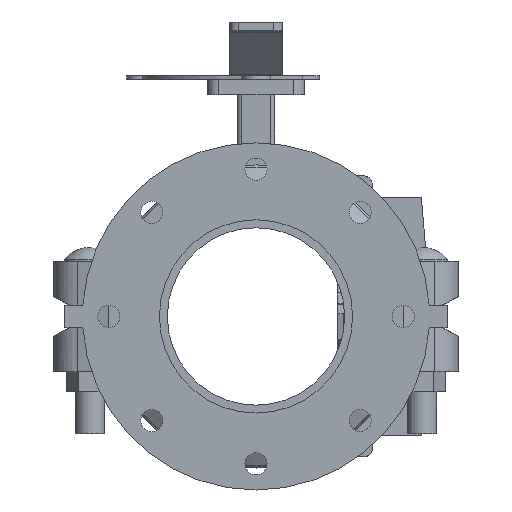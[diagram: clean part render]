
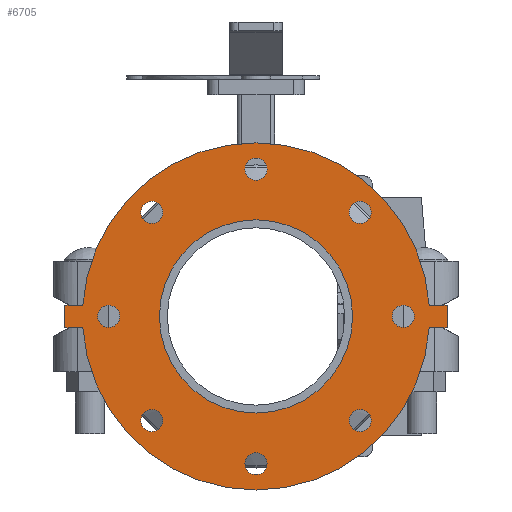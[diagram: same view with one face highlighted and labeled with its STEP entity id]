
A CAD part, front view. The second image highlights one B-rep face of the part: STEP entity #6705.
In plain terms, the highlighted planar face has unit normal (0, -1, 0) as drawn and (0, 0, -1) by its records, which use the part's own axes.
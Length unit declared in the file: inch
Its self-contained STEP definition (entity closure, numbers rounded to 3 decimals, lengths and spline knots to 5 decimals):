
#159=FACE_BOUND('',#837,.T.);
#160=FACE_BOUND('',#838,.T.);
#161=FACE_BOUND('',#839,.T.);
#162=FACE_BOUND('',#840,.T.);
#163=FACE_BOUND('',#841,.T.);
#164=FACE_BOUND('',#842,.T.);
#165=FACE_BOUND('',#843,.T.);
#166=FACE_BOUND('',#844,.T.);
#167=FACE_BOUND('',#845,.T.);
#245=PLANE('',#7271);
#464=FACE_OUTER_BOUND('',#836,.T.);
#836=EDGE_LOOP('',(#4358,#4359,#4360,#4361,#4362,#4363,#4364,#4365));
#837=EDGE_LOOP('',(#4366));
#838=EDGE_LOOP('',(#4367));
#839=EDGE_LOOP('',(#4368));
#840=EDGE_LOOP('',(#4369));
#841=EDGE_LOOP('',(#4370));
#842=EDGE_LOOP('',(#4371));
#843=EDGE_LOOP('',(#4372));
#844=EDGE_LOOP('',(#4373));
#845=EDGE_LOOP('',(#4374));
#1273=LINE('',#10175,#1788);
#1276=LINE('',#10181,#1791);
#1279=LINE('',#10186,#1794);
#1281=LINE('',#10191,#1796);
#1285=LINE('',#10198,#1800);
#1287=LINE('',#10201,#1802);
#1788=VECTOR('',#8099,0.3937);
#1791=VECTOR('',#8104,0.3937);
#1794=VECTOR('',#8109,0.3937);
#1796=VECTOR('',#8113,0.3937);
#1800=VECTOR('',#8119,0.3937);
#1802=VECTOR('',#8123,0.3937);
#2291=CIRCLE('',#7233,0.315);
#2293=CIRCLE('',#7236,0.315);
#2295=CIRCLE('',#7239,0.315);
#2297=CIRCLE('',#7242,0.315);
#2299=CIRCLE('',#7245,0.315);
#2301=CIRCLE('',#7248,0.315);
#2303=CIRCLE('',#7251,0.315);
#2305=CIRCLE('',#7254,0.315);
#2306=CIRCLE('',#7256,2.75);
#2308=CIRCLE('',#7259,4.94);
#2311=CIRCLE('',#7263,4.94);
#2675=VERTEX_POINT('',#10104);
#2677=VERTEX_POINT('',#10110);
#2679=VERTEX_POINT('',#10116);
#2681=VERTEX_POINT('',#10122);
#2683=VERTEX_POINT('',#10128);
#2685=VERTEX_POINT('',#10134);
#2687=VERTEX_POINT('',#10140);
#2689=VERTEX_POINT('',#10146);
#2690=VERTEX_POINT('',#10150);
#2692=VERTEX_POINT('',#10156);
#2694=VERTEX_POINT('',#10159);
#2696=VERTEX_POINT('',#10165);
#2699=VERTEX_POINT('',#10170);
#2700=VERTEX_POINT('',#10174);
#2702=VERTEX_POINT('',#10180);
#2704=VERTEX_POINT('',#10189);
#2705=VERTEX_POINT('',#10190);
#3320=EDGE_CURVE('',#2675,#2675,#2291,.T.);
#3323=EDGE_CURVE('',#2677,#2677,#2293,.T.);
#3326=EDGE_CURVE('',#2679,#2679,#2295,.T.);
#3329=EDGE_CURVE('',#2681,#2681,#2297,.T.);
#3332=EDGE_CURVE('',#2683,#2683,#2299,.T.);
#3335=EDGE_CURVE('',#2685,#2685,#2301,.T.);
#3338=EDGE_CURVE('',#2687,#2687,#2303,.T.);
#3341=EDGE_CURVE('',#2689,#2689,#2305,.T.);
#3342=EDGE_CURVE('',#2690,#2690,#2306,.T.);
#3346=EDGE_CURVE('',#2692,#2694,#2308,.T.);
#3352=EDGE_CURVE('',#2699,#2696,#2311,.T.);
#3353=EDGE_CURVE('',#2694,#2700,#1273,.T.);
#3356=EDGE_CURVE('',#2702,#2699,#1276,.T.);
#3359=EDGE_CURVE('',#2700,#2702,#1279,.T.);
#3361=EDGE_CURVE('',#2704,#2705,#1281,.T.);
#3365=EDGE_CURVE('',#2696,#2704,#1285,.T.);
#3367=EDGE_CURVE('',#2705,#2692,#1287,.T.);
#4358=ORIENTED_EDGE('',*,*,#3367,.F.);
#4359=ORIENTED_EDGE('',*,*,#3361,.F.);
#4360=ORIENTED_EDGE('',*,*,#3365,.F.);
#4361=ORIENTED_EDGE('',*,*,#3352,.F.);
#4362=ORIENTED_EDGE('',*,*,#3356,.F.);
#4363=ORIENTED_EDGE('',*,*,#3359,.F.);
#4364=ORIENTED_EDGE('',*,*,#3353,.F.);
#4365=ORIENTED_EDGE('',*,*,#3346,.F.);
#4366=ORIENTED_EDGE('',*,*,#3320,.T.);
#4367=ORIENTED_EDGE('',*,*,#3323,.T.);
#4368=ORIENTED_EDGE('',*,*,#3326,.T.);
#4369=ORIENTED_EDGE('',*,*,#3329,.T.);
#4370=ORIENTED_EDGE('',*,*,#3332,.T.);
#4371=ORIENTED_EDGE('',*,*,#3335,.T.);
#4372=ORIENTED_EDGE('',*,*,#3338,.T.);
#4373=ORIENTED_EDGE('',*,*,#3341,.T.);
#4374=ORIENTED_EDGE('',*,*,#3342,.T.);
#6705=ADVANCED_FACE('',(#464,#159,#160,#161,#162,#163,#164,#165,#166,#167),
#245,.F.);
#7233=AXIS2_PLACEMENT_3D('',#10106,#8023,#8024);
#7236=AXIS2_PLACEMENT_3D('',#10112,#8030,#8031);
#7239=AXIS2_PLACEMENT_3D('',#10118,#8037,#8038);
#7242=AXIS2_PLACEMENT_3D('',#10124,#8044,#8045);
#7245=AXIS2_PLACEMENT_3D('',#10130,#8051,#8052);
#7248=AXIS2_PLACEMENT_3D('',#10136,#8058,#8059);
#7251=AXIS2_PLACEMENT_3D('',#10142,#8065,#8066);
#7254=AXIS2_PLACEMENT_3D('',#10148,#8072,#8073);
#7256=AXIS2_PLACEMENT_3D('',#10151,#8076,#8077);
#7259=AXIS2_PLACEMENT_3D('',#10160,#8084,#8085);
#7263=AXIS2_PLACEMENT_3D('',#10172,#8095,#8096);
#7271=AXIS2_PLACEMENT_3D('',#10204,#8127,#8128);
#8023=DIRECTION('center_axis',(0.,0.,1.));
#8024=DIRECTION('ref_axis',(-0.707,-0.707,0.));
#8030=DIRECTION('center_axis',(0.,0.,1.));
#8031=DIRECTION('ref_axis',(-1.,0.,0.));
#8037=DIRECTION('center_axis',(0.,0.,1.));
#8038=DIRECTION('ref_axis',(-0.707,0.707,0.));
#8044=DIRECTION('center_axis',(0.,0.,1.));
#8045=DIRECTION('ref_axis',(0.,1.,0.));
#8051=DIRECTION('center_axis',(0.,0.,1.));
#8052=DIRECTION('ref_axis',(0.707,0.707,0.));
#8058=DIRECTION('center_axis',(0.,0.,1.));
#8059=DIRECTION('ref_axis',(1.,0.,0.));
#8065=DIRECTION('center_axis',(0.,0.,1.));
#8066=DIRECTION('ref_axis',(0.707,-0.707,0.));
#8072=DIRECTION('center_axis',(0.,0.,1.));
#8073=DIRECTION('ref_axis',(0.,-1.,0.));
#8076=DIRECTION('center_axis',(0.,0.,1.));
#8077=DIRECTION('ref_axis',(0.,-1.,0.));
#8084=DIRECTION('center_axis',(0.,0.,1.));
#8085=DIRECTION('ref_axis',(0.,1.,0.));
#8095=DIRECTION('center_axis',(0.,0.,1.));
#8096=DIRECTION('ref_axis',(0.,1.,0.));
#8099=DIRECTION('',(0.,-1.,0.));
#8104=DIRECTION('',(0.,1.,0.));
#8109=DIRECTION('',(1.,0.,0.));
#8113=DIRECTION('',(-1.,0.,0.));
#8119=DIRECTION('',(0.,1.,0.));
#8123=DIRECTION('',(0.,-1.,0.));
#8127=DIRECTION('center_axis',(0.,0.,1.));
#8128=DIRECTION('ref_axis',(0.,1.,0.));
#10104=CARTESIAN_POINT('',(-2.74004,3.18552,0.));
#10106=CARTESIAN_POINT('Origin',(-2.96278,2.96278,0.));
#10110=CARTESIAN_POINT('',(0.315,4.19,0.));
#10112=CARTESIAN_POINT('Origin',(0.,4.19,0.));
#10116=CARTESIAN_POINT('',(3.18552,2.74004,0.));
#10118=CARTESIAN_POINT('Origin',(2.96278,2.96278,0.));
#10122=CARTESIAN_POINT('',(4.19,-0.315,0.));
#10124=CARTESIAN_POINT('Origin',(4.19,0.,0.));
#10128=CARTESIAN_POINT('',(2.74004,-3.18552,0.));
#10130=CARTESIAN_POINT('Origin',(2.96278,-2.96278,0.));
#10134=CARTESIAN_POINT('',(-0.315,-4.19,0.));
#10136=CARTESIAN_POINT('Origin',(0.,-4.19,0.));
#10140=CARTESIAN_POINT('',(-3.18552,-2.74004,0.));
#10142=CARTESIAN_POINT('Origin',(-2.96278,-2.96278,0.));
#10146=CARTESIAN_POINT('',(-4.19,0.315,0.));
#10148=CARTESIAN_POINT('Origin',(-4.19,0.,0.));
#10150=CARTESIAN_POINT('',(0.,2.75,0.));
#10151=CARTESIAN_POINT('Origin',(0.,0.,0.));
#10156=CARTESIAN_POINT('',(-0.32,4.92962,0.));
#10159=CARTESIAN_POINT('',(-0.32,-4.92962,0.));
#10160=CARTESIAN_POINT('Origin',(0.,0.,0.));
#10165=CARTESIAN_POINT('',(0.32,4.92962,0.));
#10170=CARTESIAN_POINT('',(0.32,-4.92962,0.));
#10172=CARTESIAN_POINT('Origin',(0.,0.,0.));
#10174=CARTESIAN_POINT('',(-0.32,-5.44,0.));
#10175=CARTESIAN_POINT('',(-0.32,-4.92962,0.));
#10180=CARTESIAN_POINT('',(0.32,-5.44,0.));
#10181=CARTESIAN_POINT('',(0.32,-5.44,0.));
#10186=CARTESIAN_POINT('',(-0.32,-5.44,0.));
#10189=CARTESIAN_POINT('',(0.32,5.44,0.));
#10190=CARTESIAN_POINT('',(-0.32,5.44,0.));
#10191=CARTESIAN_POINT('',(0.32,5.44,0.));
#10198=CARTESIAN_POINT('',(0.32,4.92962,0.));
#10201=CARTESIAN_POINT('',(-0.32,5.44,0.));
#10204=CARTESIAN_POINT('Origin',(0.,5.20539,
0.));
